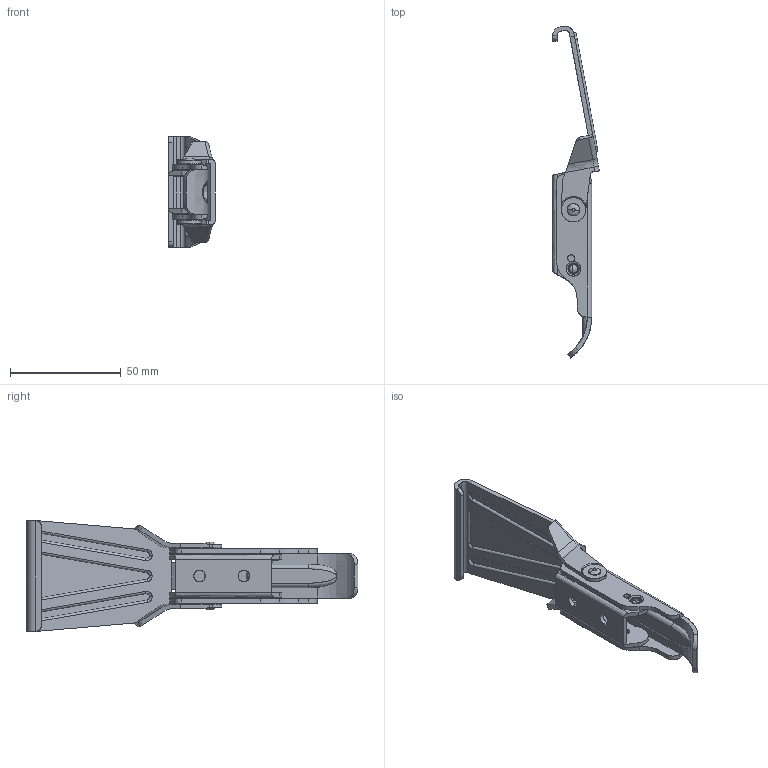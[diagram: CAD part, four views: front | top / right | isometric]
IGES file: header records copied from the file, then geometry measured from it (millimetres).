
Start section: SolidWorks IGES FILE using analytic representation for surfaces
Global section: file name: C:\WINNT\Profiles\cbrechard\Bureau\GE 51\GE 51 IB.IGS; native system: SolidWorks 2001Plus by SolidWorks Corporation; preprocessor: Version 5.3; author: CBRECHARD; date: 050125.135458; units: millimetre
Bounding box: 21.08 x 149.79 x 50 mm (x, y, z)
Surface area: 22485.2 mm2 (no closed solid volume)
Topology: 0 solids, 0 shells, 301 faces, 4861 edges, 4861 vertices
Faces by surface type: bspline 167, revolution 134
